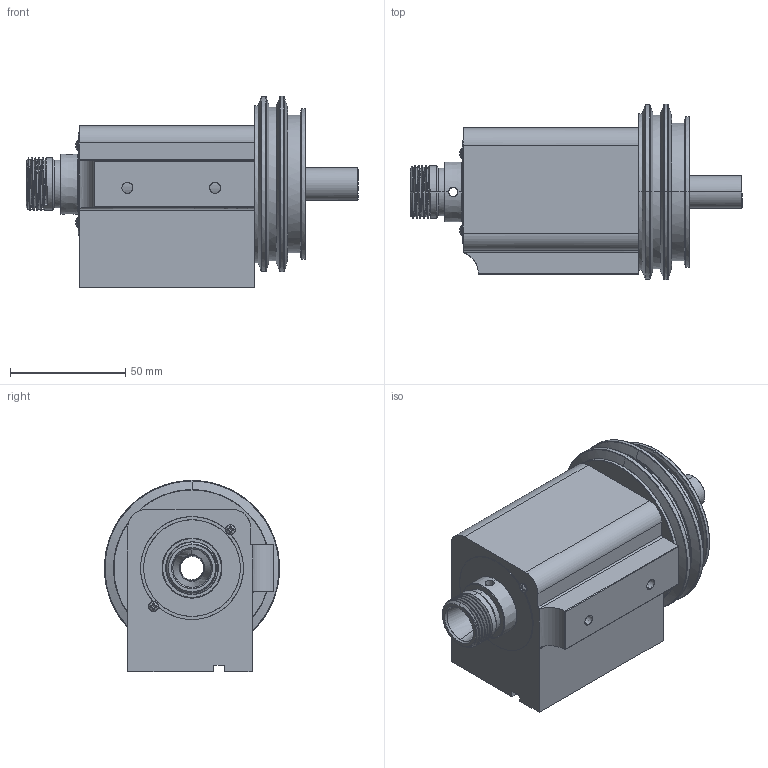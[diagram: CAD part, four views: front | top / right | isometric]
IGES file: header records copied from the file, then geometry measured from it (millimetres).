
Start section: Comment
Global section: file name: 6524.igs; native system:  By Spatial Corp.; preprocessor: XPlus PS/IGES 3.0; author: sherline; organization: Title; date: 20220810.044643; units: inch
Bounding box: 144.27 x 76.06 x 83.05 mm (x, y, z)
Surface area: 82734.9 mm2 (no closed solid volume)
Topology: 0 solids, 0 shells, 486 faces, 2784 edges, 2778 vertices
Faces by surface type: revolution 320, extrusion 105, bspline 61
